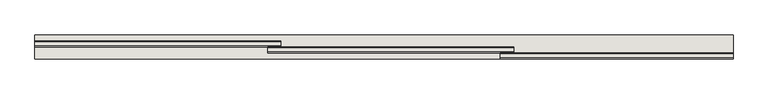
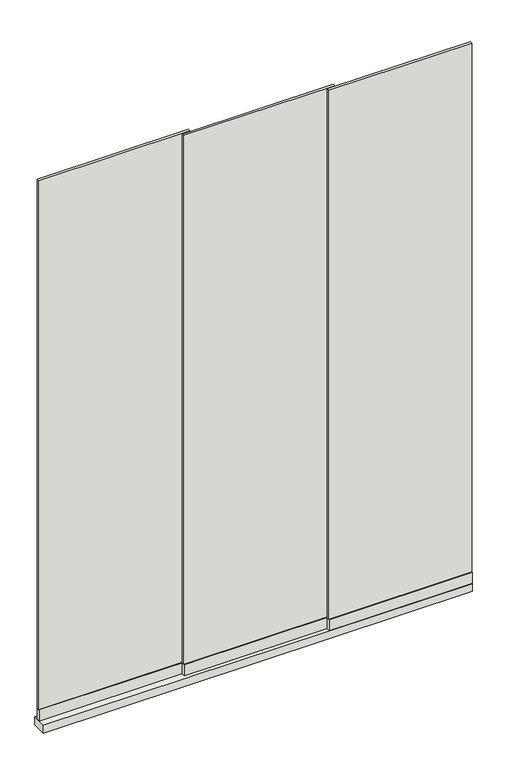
"""IFC4 building model written with IfcOpenShell, lengths in millimetres: wall geometry, Renson_Amani_Glass_Sliding_Panel : Renson_Amani_Glass_Sliding_Panel."""

from ifc_helpers import new_model, si_unit, frame, origin, origin_with_axes, place, context, project, spatial, polyline, outline, extrude, source, transform, mapped, element, save


def wall_0dc757db(model_context):
    return source(origin(), model_context, "Body", "SweptSolid", [
        extrude(outline(polyline([(750.0, 0.0), (-1100.0, 0.0), (-1100.0, 64.0), (750.0, 64.0), (750.0, 0.0)])), origin_with_axes(), (0.0, 0.0, 1.0), 35.0),
        extrude(outline(polyline([(750.0, 3.0), (133.3333333, 3.0), (133.3333333, 13.0), (750.0, 13.0), (750.0, 3.0)])), frame((0.0, 0.0, 86.0), z_axis=(0.0, 0.0, 1.0), x_axis=(1.0, 0.0, 0.0)), (0.0, 0.0, 1.0), 2414.0),
        extrude(outline(polyline([(168.3333333, 19.0), (-483.3333333, 19.0), (-483.3333333, 29.0), (168.3333333, 29.0), (168.3333333, 19.0)])), frame((0.0, 0.0, 86.0), z_axis=(0.0, 0.0, 1.0), x_axis=(1.0, 0.0, 0.0)), (0.0, 0.0, 1.0), 2414.0),
        extrude(outline(polyline([(-448.3333333, 35.0), (-1100.0, 35.0), (-1100.0, 45.0), (-448.3333333, 45.0), (-448.3333333, 35.0)])), frame((0.0, 0.0, 86.0), z_axis=(0.0, 0.0, 1.0), x_axis=(1.0, 0.0, 0.0)), (0.0, 0.0, 1.0), 2414.0),
        extrude(outline(polyline([(750.0, 0.0), (133.3333333, 0.0), (133.3333333, 16.0), (750.0, 16.0), (750.0, 0.0)])), frame((0.0, 0.0, 35.0), z_axis=(0.0, 0.0, 1.0), x_axis=(1.0, 0.0, 0.0)), (0.0, 0.0, 1.0), 51.0),
        extrude(outline(polyline([(168.3333333, 16.0), (-483.3333333, 16.0), (-483.3333333, 32.0), (168.3333333, 32.0), (168.3333333, 16.0)])), frame((0.0, 0.0, 35.0), z_axis=(0.0, 0.0, 1.0), x_axis=(1.0, 0.0, 0.0)), (0.0, 0.0, 1.0), 51.0),
        extrude(outline(polyline([(-448.3333333, 32.0), (-1100.0, 32.0), (-1100.0, 48.0), (-448.3333333, 48.0), (-448.3333333, 32.0)])), frame((0.0, 0.0, 35.0), z_axis=(0.0, 0.0, 1.0), x_axis=(1.0, 0.0, 0.0)), (0.0, 0.0, 1.0), 51.0),
    ])


if __name__ == "__main__":
    model = new_model("IFC4")
    model_context = context("Model", 3, world=origin())
    ifc_project = project(units=[si_unit("LENGTHUNIT", "METRE", prefix="MILLI")], contexts=[model_context])
    site = spatial("IfcSite", under=ifc_project)
    building = spatial("IfcBuilding", under=site)
    placement = place(None, origin())
    wall_shape = wall_0dc757db(model_context)
    element("IfcWall", 1, ObjectType="Renson_Amani_Glass_Sliding_Panel : Renson_Amani_Glass_Sliding_Panel", at=placement, inside=building, context=model_context, shape_type="MappedRepresentation", body=[
        mapped(wall_shape, transform((0.0, 0.0, 0.0), x_axis=(1.0, 0.0, 0.0), y_axis=(0.0, 1.0, 0.0), z_axis=(0.0, 0.0, 1.0))),
    ])
    save(model, "model.ifc")
